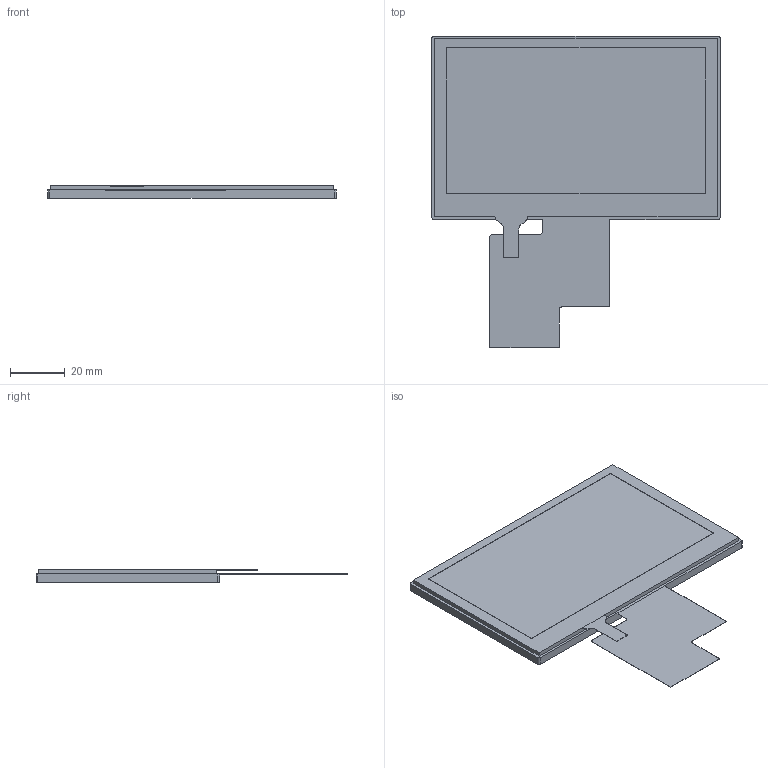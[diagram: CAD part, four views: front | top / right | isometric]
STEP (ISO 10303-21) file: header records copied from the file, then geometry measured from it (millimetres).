
FILE_DESCRIPTION((''),'2;1');
FILE_NAME('DMG48270F043-01WTR','2021-11-09T',('Administrator'),(''),'PRO/ENGINEER BY PARAMETRIC TECHNOLOGY CORPORATION, 2011310','PRO/ENGINEER BY PARAMETRIC TECHNOLOGY CORPORATION, 2011310','');
FILE_SCHEMA(('CONFIG_CONTROL_DESIGN','SHAPE_APPEARANCE_LAYERS_GROUPS'));
Length unit declared in the file: millimetre
Products named in the file (1): DMG48270F043-01WTR
Bounding box: 105.5 x 114.2 x 4.5 mm (x, y, z)
Volume: 30041.8 mm3; surface area: 29624.6 mm2
Topology: 1 solids, 2 shells, 60 faces, 162 edges, 108 vertices
Faces by surface type: plane 41, cylinder 19
Entity records: 1995 total; most frequent: CARTESIAN_POINT 330, ORIENTED_EDGE 324, DIRECTION 320, EDGE_CURVE 162, VECTOR 124, LINE 124, VERTEX_POINT 108, AXIS2_PLACEMENT_3D 98
